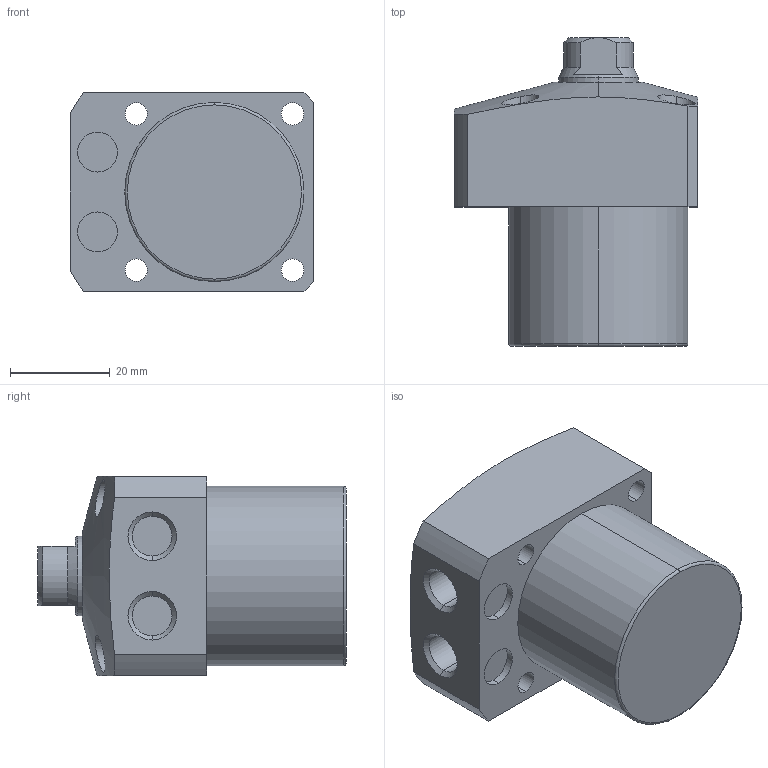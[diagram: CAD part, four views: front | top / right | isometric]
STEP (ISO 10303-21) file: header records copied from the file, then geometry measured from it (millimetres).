
FILE_DESCRIPTION (( 'STEP AP203' ), '1' );
FILE_NAME ('CLL-036CA-020.STEP', '2020-01-03T12:29:42', ( '' ), ( '' ), 'SwSTEP 2.0', 'SolidWorks 2015', '' );
FILE_SCHEMA (( 'CONFIG_CONTROL_DESIGN' ));
Length unit declared in the file: millimetre
Products named in the file (1): CLL-036CA-020
Bounding box: 49 x 62 x 40 mm (x, y, z)
Volume: 69943 mm3; surface area: 13342.2 mm2
Topology: 1 solids, 1 shells, 72 faces, 166 edges, 105 vertices
Faces by surface type: cylinder 34, plane 22, cone 14, torus 2
Entity records: 2453 total; most frequent: CARTESIAN_POINT 708, DIRECTION 364, ORIENTED_EDGE 328, EDGE_CURVE 164, AXIS2_PLACEMENT_3D 151, VERTEX_POINT 105, EDGE_LOOP 91, CIRCLE 78
